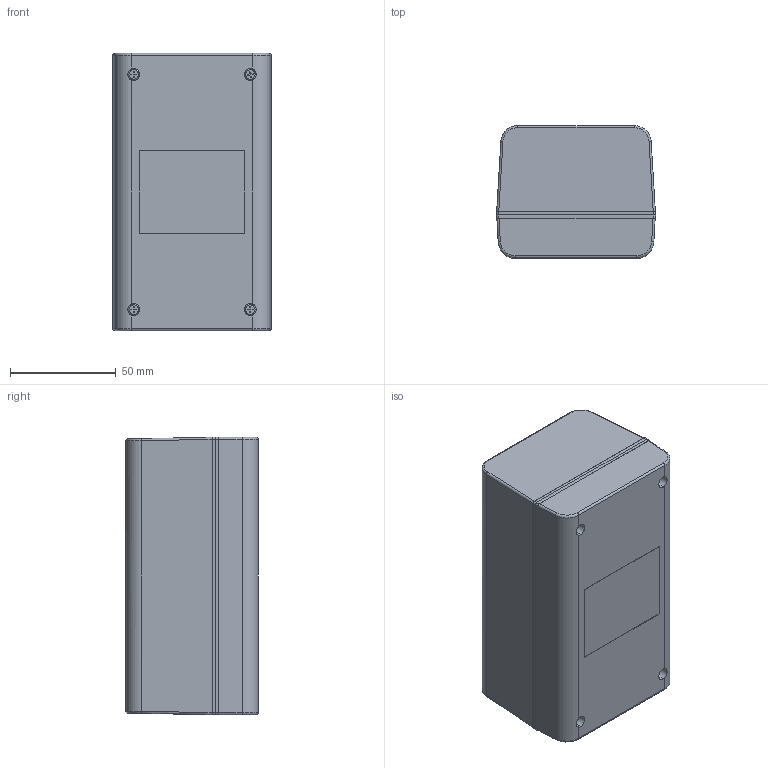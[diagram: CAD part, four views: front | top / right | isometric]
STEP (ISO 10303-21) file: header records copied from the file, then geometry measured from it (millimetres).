
FILE_DESCRIPTION (( 'STEP AP214' ), '1' );
FILE_NAME ('Conjunt PP49.STEP', '2016-09-12T16:18:46', ( 'aaa' ), ( '' ), 'SwSTEP 2.0', 'SolidWorks 2013', '' );
FILE_SCHEMA (( 'AUTOMOTIVE_DESIGN' ));
Length unit declared in the file: millimetre
Products named in the file (6): Cargol 2,1x6,5; Cargol 2,9x13; Tapeta; Tapa; Cos; Conjunt PP49
Assembly tree (11 placements, depth 2):
  Conjunt PP49
    Cos
    Tapa
    Tapeta
    Cargol 2,9x13  x4
    Cargol 2,1x6,5  x4
Bounding box: 75.12 x 62.5 x 131.2 mm (x, y, z)
Volume: 118947.6 mm3; surface area: 96829.1 mm2
Topology: 13 solids, 13 shells, 966 faces, 2186 edges, 1266 vertices
Faces by surface type: cone 512, plane 278, cylinder 144, torus 20, bspline 12
Entity records: 15022 total; most frequent: CARTESIAN_POINT 3329, DIRECTION 2428, ORIENTED_EDGE 2288, EDGE_CURVE 1144, AXIS2_PLACEMENT_3D 875, VERTEX_POINT 708, LINE 678, VECTOR 678
